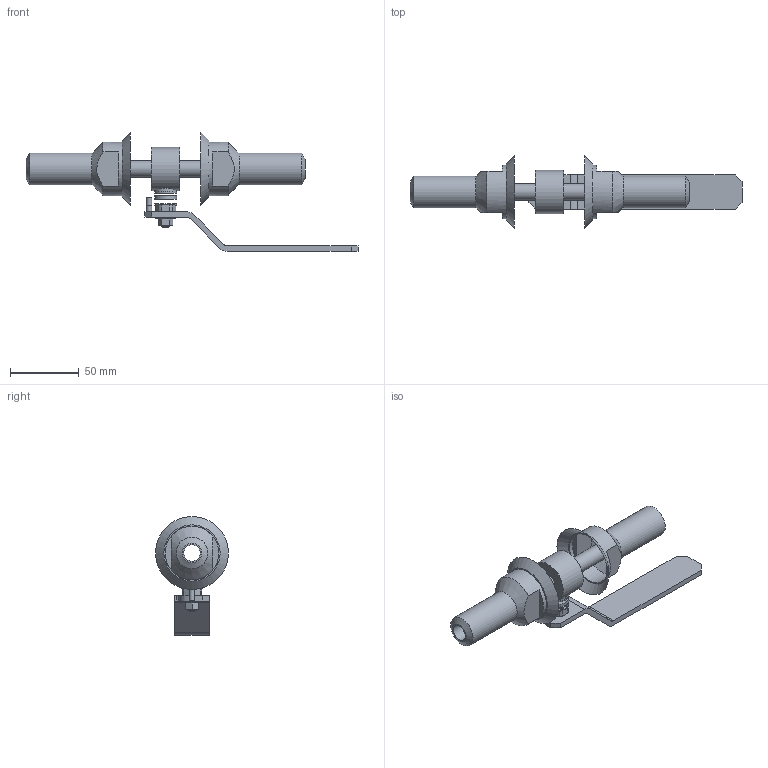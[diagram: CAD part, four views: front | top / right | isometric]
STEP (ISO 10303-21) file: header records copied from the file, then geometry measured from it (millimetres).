
FILE_DESCRIPTION(('STEP AP203'), '1');
FILE_NAME('ZARD 015.250.40.P.stp', '2013-12-05T09:24:16', ('User'), ('Computer'), 'ASCON STEP Converter 1.3', 'Kompas 3D', '');
FILE_SCHEMA(('CONFIG_CONTROL_DESIGN','SUPPORT_RESOURCE_SCHEMA'));
Length unit declared in the file: millimetre
Products named in the file (1): 105
Bounding box: 241.5 x 53 x 86.5 mm (x, y, z)
Volume: 195994.5 mm3; surface area: 45506.9 mm2
Topology: 1 solids, 3 shells, 151 faces, 361 edges, 221 vertices
Faces by surface type: plane 88, cylinder 37, cone 25, bspline 1
Full cylindrical faces by diameter (mm): 4 x2, 6 x2, 8.673 x1, 9 x1, 10 x2, 12 x2, 14.2 x1, 15.8 x1, 16 x2, 23 x2, 31.4 x1, 39 x2, 53 x1
Entity records: 5899 total; most frequent: CARTESIAN_POINT 2261, DIRECTION 765, ORIENTED_EDGE 720, EDGE_CURVE 360, AXIS2_PLACEMENT_3D 287, VERTEX_POINT 221, LINE 191, VECTOR 191
